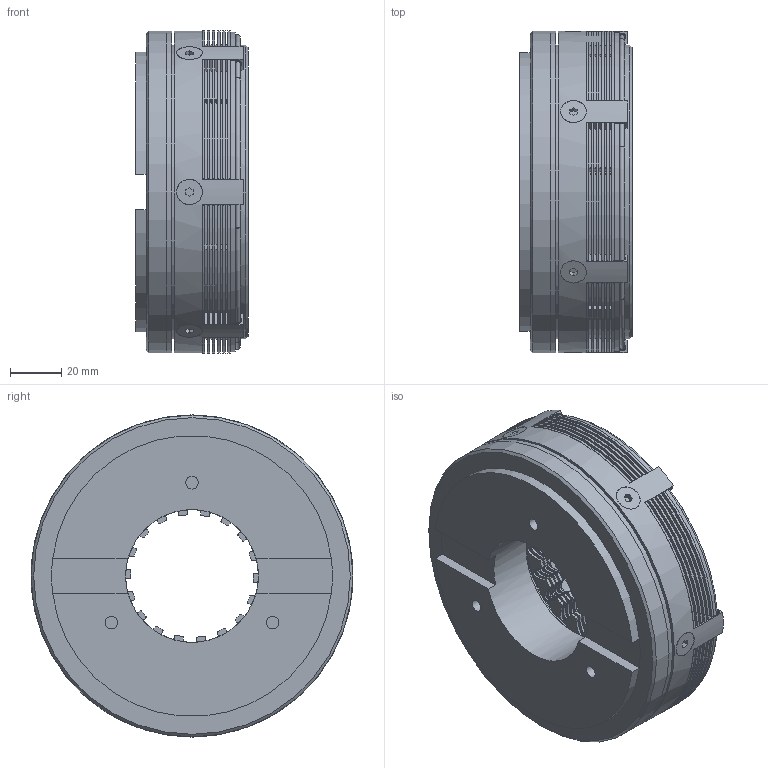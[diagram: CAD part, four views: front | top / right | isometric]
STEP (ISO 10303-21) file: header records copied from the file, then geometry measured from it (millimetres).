
FILE_DESCRIPTION(/* description */ (''),/* implementation_level */ '2;1');
FILE_NAME(/* name */ 'X:\INVENTOR\DISEGNI\05_Friz_Elettmag-Lam\05_02 ECF\05_02_126_01 ECF126\05_02_126_01 ECF126@STEP.stp',/* time_stamp */ '2023-03-03T14:29:40+01:00',/* author */ ('alessio'),/* organization */ (''),/* preprocessor_version */ 'ST-DEVELOPER v18.1',/* originating_system */ 'Autodesk Inventor 2021',/* authorisation */ '');
FILE_SCHEMA (('AUTOMOTIVE_DESIGN { 1 0 10303 214 3 1 1 }'));
Products named in the file (1): 05_02_126_01 ECF126
Bounding box: 44 x 126 x 126.2 mm (x, y, z)
Volume: 378282.8 mm3; surface area: 105890.9 mm2
Topology: 1 solids, 13 shells, 9867 faces, 29419 edges, 19421 vertices
Faces by surface type: plane 8775, cylinder 1046, cone 28, torus 18
Full cylindrical faces by diameter (mm): 1.8 x6, 2 x6, 4.134 x6, 4.917 x3, 5 x6, 5.8 x6, 10 x6, 52 x1, 61 x1, 80 x1, 82 x1, 84 x1, 88 x1, 89 x1, 103 x1, 115 x2, 126 x3
Entity records: 337675 total; most frequent: CARTESIAN_POINT 60264, ORIENTED_EDGE 58862, DIRECTION 51566, EDGE_CURVE 29431, LINE 26720, VECTOR 26720, VERTEX_POINT 19421, AXIS2_PLACEMENT_3D 12423
